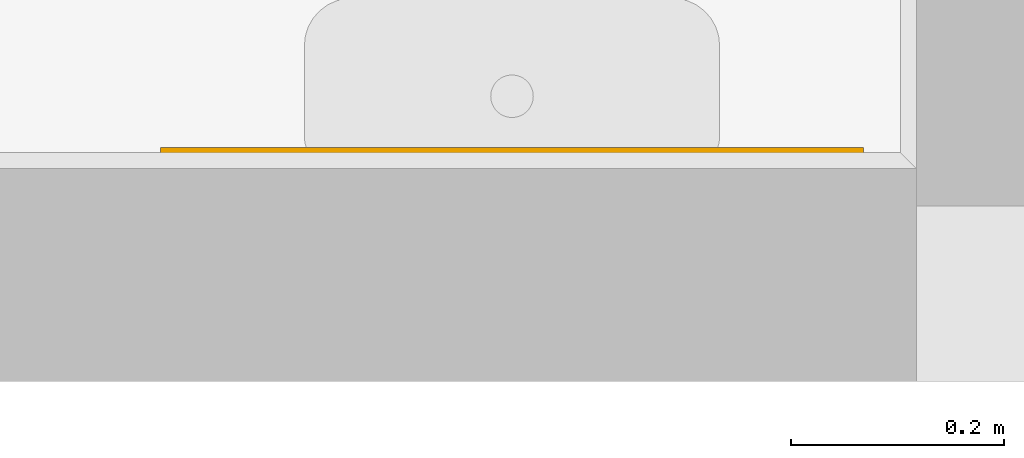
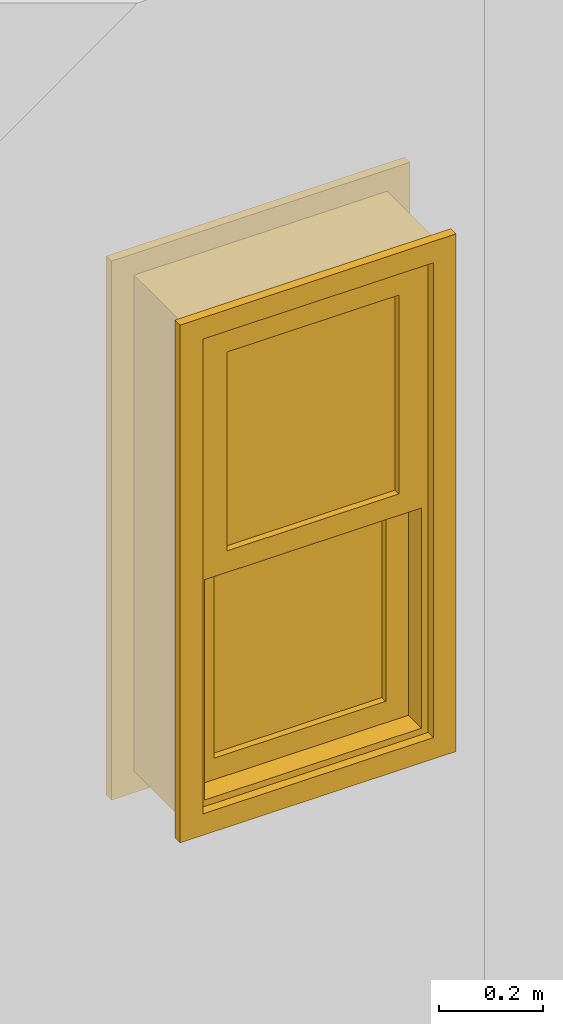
# One storey, part 35 of 77: 1 window.
"""IFC2X3 building model written with IfcOpenShell, lengths in inches."""

from ifc_helpers import new_model, entity, si_unit, converted_unit, derived_unit, money_unit, direction, frame, origin_with_axes, place, context, subcontext, project, spatial, open_shell, faceted_brep, surface_model, type_object, element, save


model = new_model("IFC2X3")

# Units and contexts
model_context = context("Model", 3, precision=0.000393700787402, world=origin_with_axes(), true_north=direction((0.0, 1.0)))
body_context = subcontext(model_context, "Body", "Model", "MODEL_VIEW")
ifc_project = project(units=[converted_unit("LENGTHUNIT", "INCH", entity("IfcPositiveLengthMeasure", 0.0254), si_unit("LENGTHUNIT", "METRE"), dimensions=[1, 0, 0, 0, 0, 0, 0]), converted_unit("AREAUNIT", "SQUARE_FOOT", entity("IfcPositiveLengthMeasure", 0.09290304), si_unit("AREAUNIT", "SQUARE_METRE"), dimensions=[2, 0, 0, 0, 0, 0, 0]), si_unit("PLANEANGLEUNIT", "RADIAN"), si_unit("SOLIDANGLEUNIT", "STERADIAN"), money_unit("USD"), converted_unit("TIMEUNIT", "Year", entity("IfcTimeMeasure", 31556926.0), si_unit("TIMEUNIT", "SECOND"), dimensions=[0, 0, 1, 0, 0, 0, 0]), si_unit("MASSUNIT", "GRAM", prefix="KILO"), si_unit("THERMODYNAMICTEMPERATUREUNIT", "DEGREE_CELSIUS"), si_unit("LUMINOUSINTENSITYUNIT", "LUMEN"), si_unit("ENERGYUNIT", "JOULE", prefix="MEGA"), derived_unit("THERMALCONDUCTANCEUNIT", [(si_unit("POWERUNIT", "WATT"), 1), (si_unit("LENGTHUNIT", "METRE"), -1), (si_unit("THERMODYNAMICTEMPERATUREUNIT", "KELVIN"), -1)]), derived_unit("SPECIFICHEATCAPACITYUNIT", [(si_unit("ENERGYUNIT", "JOULE"), 1), (si_unit("MASSUNIT", "GRAM", prefix="KILO"), -1), (si_unit("THERMODYNAMICTEMPERATUREUNIT", "KELVIN"), -1)]), derived_unit("MASSDENSITYUNIT", [(si_unit("MASSUNIT", "GRAM", prefix="KILO"), 1), (si_unit("VOLUMEUNIT", "CUBIC_METRE"), -1)])], contexts=[model_context])

# Site, building, storey
site_placement = place(None, origin_with_axes())
site = spatial("IfcSite", under=ifc_project, at=site_placement, Name="Site", CompositionType="ELEMENT")
building_placement = place(site_placement, origin_with_axes())
building = spatial("IfcBuilding", under=site, at=building_placement, Name="Building", CompositionType="ELEMENT")
storey_placement = place(building_placement, frame((0.0, 0.0, 127.952755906), z_axis=(0.0, 0.0, 1.0), x_axis=(1.0, 0.0, 0.0)))
storey = spatial("IfcBuildingStorey", under=building, at=storey_placement, Name="Second Floor", CompositionType="ELEMENT", Elevation=127.953)

# Window
window_style = type_object("IfcWindowStyle", Name="Double-Hung Window 25", ConstructionType="NOTDEFINED", OperationType="DOUBLE_PANEL_HORIZONTAL", ParameterTakesPrecedence=False, Sizeable=False)
window_placement = place(storey_placement, frame((834.935785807, 20.7811880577, 49.0157480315), z_axis=(0.0, 0.0, 1.0), x_axis=(1.0, 0.0, 0.0)))
element("IfcWindow", 1, at=window_placement, inside=storey, type_object=window_style, Name="W-11", OverallHeight=45.6693, OverallWidth=22.0472, context=body_context, shape_type="SurfaceModel", body=[
    faceted_brep([(22.0472440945, -3.93700787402, 0.0), (0.0, -3.93700787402, 0.0), (0.0, 0.0, 0.0), (22.0472440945, 0.0, 0.0), (22.0472440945, -3.93700787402, 45.6692913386), (0.0, -3.93700787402, 45.6692913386), (21.8503937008, -3.93700787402, 0.196850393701), (0.196850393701, -3.93700787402, 0.196850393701), (0.196850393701, -3.93700787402, 45.4724409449), (21.8503937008, -3.93700787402, 45.4724409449), (0.0, 0.0, 45.6692913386), (22.0472440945, 0.0, 45.6692913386), (21.8503937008, 0.0, 0.196850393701), (21.8503937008, 0.0, 45.4724409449), (0.196850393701, 0.0, 45.4724409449), (0.196850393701, 0.0, 0.196850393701)], [[[0, 1, 2, 3]], [[0, 4, 5, 1], [6, 7, 8, 9]], [[1, 5, 10, 2]], [[3, 2, 10, 11], [12, 13, 14, 15]], [[4, 0, 3, 11]], [[5, 4, 11, 10]], [[7, 6, 12, 15]], [[8, 7, 15, 14]], [[9, 8, 14, 13]], [[6, 9, 13, 12]]]),
    faceted_brep([(24.0157480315, 0.787401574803, -1.96850393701), (24.0157480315, 0.0, -1.96850393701), (22.0472440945, 0.0, 0.0), (22.0472440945, 0.787401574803, 0.0), (24.0157480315, 0.787401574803, 47.6377952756), (24.0157480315, 0.0, 47.6377952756), (22.0472440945, 0.0, 45.6692913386), (22.0472440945, 0.787401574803, 45.6692913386)], [[[0, 1, 2, 3]], [[4, 5, 1, 0]], [[1, 5, 6, 2]], [[3, 2, 6, 7]], [[0, 3, 7, 4]], [[7, 6, 5, 4]]]),
    faceted_brep([(-1.96850393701, 0.787401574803, 47.6377952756), (-1.96850393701, 0.0, 47.6377952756), (0.0, 0.0, 45.6692913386), (0.0, 0.787401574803, 45.6692913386), (-1.96850393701, 0.787401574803, -1.96850393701), (-1.96850393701, 0.0, -1.96850393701), (0.0, 0.0, 0.0), (0.0, 0.787401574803, 0.0)], [[[0, 1, 2, 3]], [[4, 5, 1, 0]], [[1, 5, 6, 2]], [[3, 2, 6, 7]], [[0, 3, 7, 4]], [[7, 6, 5, 4]]]),
    faceted_brep([(-1.96850393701, 0.787401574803, -1.96850393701), (-1.96850393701, 0.0, -1.96850393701), (0.0, 0.0, 0.0), (0.0, 0.787401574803, 0.0), (24.0157480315, 0.787401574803, -1.96850393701), (24.0157480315, 0.0, -1.96850393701), (22.0472440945, 0.0, 0.0), (22.0472440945, 0.787401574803, 0.0)], [[[0, 1, 2, 3]], [[4, 5, 1, 0]], [[1, 5, 6, 2]], [[3, 2, 6, 7]], [[0, 3, 7, 4]], [[7, 6, 5, 4]]]),
    faceted_brep([(24.0157480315, 0.787401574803, 47.6377952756), (24.0157480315, 0.0, 47.6377952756), (22.0472440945, 0.0, 45.6692913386), (22.0472440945, 0.787401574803, 45.6692913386), (-1.96850393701, 0.787401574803, 47.6377952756), (-1.96850393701, 0.0, 47.6377952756), (0.0, 0.0, 45.6692913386), (0.0, 0.787401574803, 45.6692913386)], [[[0, 1, 2, 3]], [[4, 5, 1, 0]], [[1, 5, 6, 2]], [[3, 2, 6, 7]], [[0, 3, 7, 4]], [[7, 6, 5, 4]]]),
    faceted_brep([(23.031496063, -8.66141732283, -0.984251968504), (21.062992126, -8.66141732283, 0.984251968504), (21.062992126, -7.87401574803, 0.984251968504), (23.031496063, -7.87401574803, -0.984251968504), (23.031496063, -8.66141732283, 46.6535433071), (21.062992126, -8.66141732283, 44.6850393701), (21.062992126, -7.87401574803, 44.6850393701), (23.031496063, -7.87401574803, 46.6535433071)], [[[0, 1, 2, 3]], [[0, 4, 5, 1]], [[1, 5, 6, 2]], [[3, 2, 6, 7]], [[4, 0, 3, 7]], [[5, 4, 7, 6]]]),
    faceted_brep([(-0.984251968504, -8.66141732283, 46.6535433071), (0.984251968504, -8.66141732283, 44.6850393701), (0.984251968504, -7.87401574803, 44.6850393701), (-0.984251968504, -7.87401574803, 46.6535433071), (-0.984251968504, -8.66141732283, -0.984251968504), (0.984251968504, -8.66141732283, 0.984251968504), (0.984251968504, -7.87401574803, 0.984251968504), (-0.984251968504, -7.87401574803, -0.984251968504)], [[[0, 1, 2, 3]], [[0, 4, 5, 1]], [[1, 5, 6, 2]], [[3, 2, 6, 7]], [[4, 0, 3, 7]], [[5, 4, 7, 6]]]),
    faceted_brep([(-0.984251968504, -8.66141732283, -0.984251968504), (0.984251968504, -8.66141732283, 0.984251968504), (0.984251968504, -7.87401574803, 0.984251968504), (-0.984251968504, -7.87401574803, -0.984251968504), (23.031496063, -8.66141732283, -0.984251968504), (21.062992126, -8.66141732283, 0.984251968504), (21.062992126, -7.87401574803, 0.984251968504), (23.031496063, -7.87401574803, -0.984251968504)], [[[0, 1, 2, 3]], [[0, 4, 5, 1]], [[1, 5, 6, 2]], [[3, 2, 6, 7]], [[4, 0, 3, 7]], [[5, 4, 7, 6]]]),
    faceted_brep([(23.031496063, -8.66141732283, 46.6535433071), (21.062992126, -8.66141732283, 44.6850393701), (21.062992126, -7.87401574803, 44.6850393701), (23.031496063, -7.87401574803, 46.6535433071), (-0.984251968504, -8.66141732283, 46.6535433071), (0.984251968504, -8.66141732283, 44.6850393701), (0.984251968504, -7.87401574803, 44.6850393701), (-0.984251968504, -7.87401574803, 46.6535433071)], [[[0, 1, 2, 3]], [[0, 4, 5, 1]], [[1, 5, 6, 2]], [[3, 2, 6, 7]], [[4, 0, 3, 7]], [[5, 4, 7, 6]]]),
    faceted_brep([(20.4724409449, -7.87401574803, 44.094488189), (22.0472440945, -7.87401574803, 44.094488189), (22.0472440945, -3.93700787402, 44.094488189), (20.4724409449, -3.93700787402, 44.094488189), (20.4724409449, -7.87401574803, 1.57480314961), (22.0472440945, -7.87401574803, 1.57480314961), (22.0472440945, -3.93700787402, 1.57480314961), (20.4724409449, -3.93700787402, 1.57480314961)], [[[0, 1, 2, 3]], [[0, 4, 5, 1]], [[1, 5, 6, 2]], [[3, 2, 6, 7]], [[4, 0, 3, 7]], [[5, 4, 7, 6]]]),
    faceted_brep([(1.57480314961, -7.87401574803, 1.57480314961), (0.0, -7.87401574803, 1.57480314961), (0.0, -3.93700787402, 1.57480314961), (1.57480314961, -3.93700787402, 1.57480314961), (1.57480314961, -7.87401574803, 44.094488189), (0.0, -7.87401574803, 44.094488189), (0.0, -3.93700787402, 44.094488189), (1.57480314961, -3.93700787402, 44.094488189)], [[[0, 1, 2, 3]], [[0, 4, 5, 1]], [[1, 5, 6, 2]], [[3, 2, 6, 7]], [[4, 0, 3, 7]], [[5, 4, 7, 6]]]),
    faceted_brep([(20.4724409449, -7.87401574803, 1.57480314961), (22.0472440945, -7.87401574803, 1.57480314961), (22.0472440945, -3.93700787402, 1.57480314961), (20.4724409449, -3.93700787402, 1.57480314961), (1.57480314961, -7.87401574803, 1.57480314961), (0.0, -7.87401574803, 1.57480314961), (0.0, -7.87401574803, 0.0), (22.0472440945, -7.87401574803, 0.0), (22.0472440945, -3.93700787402, 0.0), (0.0, -3.93700787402, 0.0), (0.0, -3.93700787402, 1.57480314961), (1.57480314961, -3.93700787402, 1.57480314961)], [[[0, 1, 2, 3]], [[0, 4, 5, 6, 7, 1]], [[1, 7, 8, 2]], [[3, 2, 8, 9, 10, 11]], [[4, 0, 3, 11]], [[5, 4, 11, 10]], [[6, 5, 10, 9]], [[7, 6, 9, 8]]]),
    faceted_brep([(1.57480314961, -7.87401574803, 44.094488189), (0.0, -7.87401574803, 44.094488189), (0.0, -3.93700787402, 44.094488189), (1.57480314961, -3.93700787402, 44.094488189), (20.4724409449, -7.87401574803, 44.094488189), (22.0472440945, -7.87401574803, 44.094488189), (22.0472440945, -7.87401574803, 45.6692913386), (0.0, -7.87401574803, 45.6692913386), (0.0, -3.93700787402, 45.6692913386), (22.0472440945, -3.93700787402, 45.6692913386), (22.0472440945, -3.93700787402, 44.094488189), (20.4724409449, -3.93700787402, 44.094488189)], [[[0, 1, 2, 3]], [[0, 4, 5, 6, 7, 1]], [[1, 7, 8, 2]], [[3, 2, 8, 9, 10, 11]], [[4, 0, 3, 11]], [[5, 4, 11, 10]], [[6, 5, 10, 9]], [[7, 6, 9, 8]]]),
    faceted_brep([(18.5039370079, -5.90551181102, 21.8503937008), (20.4724409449, -5.90551181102, 21.8503937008), (20.4724409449, -3.93700787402, 21.8503937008), (18.5039370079, -3.93700787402, 21.8503937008), (18.5039370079, -5.90551181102, 3.54330708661), (20.4724409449, -5.90551181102, 3.54330708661), (20.4724409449, -3.93700787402, 3.54330708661), (18.5039370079, -3.93700787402, 3.54330708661)], [[[0, 1, 2, 3]], [[0, 4, 5, 1]], [[1, 5, 6, 2]], [[3, 2, 6, 7]], [[4, 0, 3, 7]], [[5, 4, 7, 6]]]),
    faceted_brep([(3.54330708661, -5.90551181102, 3.54330708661), (1.57480314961, -5.90551181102, 3.54330708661), (1.57480314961, -3.93700787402, 3.54330708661), (3.54330708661, -3.93700787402, 3.54330708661), (3.54330708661, -5.90551181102, 21.8503937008), (1.57480314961, -5.90551181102, 21.8503937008), (1.57480314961, -3.93700787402, 21.8503937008), (3.54330708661, -3.93700787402, 21.8503937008)], [[[0, 1, 2, 3]], [[0, 4, 5, 1]], [[1, 5, 6, 2]], [[3, 2, 6, 7]], [[4, 0, 3, 7]], [[5, 4, 7, 6]]]),
    faceted_brep([(1.57480314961, -5.90551181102, 1.57480314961), (1.57480314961, -5.90551181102, 3.54330708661), (1.57480314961, -3.93700787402, 3.54330708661), (1.57480314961, -3.93700787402, 1.57480314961), (20.4724409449, -5.90551181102, 1.57480314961), (20.4724409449, -5.90551181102, 3.54330708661), (18.5039370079, -5.90551181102, 3.54330708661), (3.54330708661, -5.90551181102, 3.54330708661), (3.54330708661, -3.93700787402, 3.54330708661), (18.5039370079, -3.93700787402, 3.54330708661), (20.4724409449, -3.93700787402, 3.54330708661), (20.4724409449, -3.93700787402, 1.57480314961)], [[[0, 1, 2, 3]], [[0, 4, 5, 6, 7, 1]], [[1, 7, 8, 2]], [[3, 2, 8, 9, 10, 11]], [[4, 0, 3, 11]], [[5, 4, 11, 10]], [[6, 5, 10, 9]], [[7, 6, 9, 8]]]),
    faceted_brep([(20.4724409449, -5.90551181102, 23.8188976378), (20.4724409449, -5.90551181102, 21.8503937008), (20.4724409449, -3.93700787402, 21.8503937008), (20.4724409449, -3.93700787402, 23.8188976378), (1.57480314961, -5.90551181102, 23.8188976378), (1.57480314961, -5.90551181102, 21.8503937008), (3.54330708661, -5.90551181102, 21.8503937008), (18.5039370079, -5.90551181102, 21.8503937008), (18.5039370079, -3.93700787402, 21.8503937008), (3.54330708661, -3.93700787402, 21.8503937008), (1.57480314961, -3.93700787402, 21.8503937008), (1.57480314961, -3.93700787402, 23.8188976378)], [[[0, 1, 2, 3]], [[0, 4, 5, 6, 7, 1]], [[1, 7, 8, 2]], [[3, 2, 8, 9, 10, 11]], [[4, 0, 3, 11]], [[5, 4, 11, 10]], [[6, 5, 10, 9]], [[7, 6, 9, 8]]]),
    surface_model("IfcShellBasedSurfaceModel", [(18.5039370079, -5.31496062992, 3.54330708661), (18.5039370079, -5.31496062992, 21.8503937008), (3.54330708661, -5.31496062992, 21.8503937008), (3.54330708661, -5.31496062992, 3.54330708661)], [open_shell([[[0, 1, 2, 3]]])]),
    surface_model("IfcShellBasedSurfaceModel", [(18.5039370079, -4.52755905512, 3.54330708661), (3.54330708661, -4.52755905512, 3.54330708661), (3.54330708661, -4.52755905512, 21.8503937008), (18.5039370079, -4.52755905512, 21.8503937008)], [open_shell([[[0, 1, 2, 3]]])]),
    faceted_brep([(18.5039370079, -7.87401574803, 42.125984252), (20.4724409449, -7.87401574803, 42.125984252), (20.4724409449, -5.90551181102, 42.125984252), (18.5039370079, -5.90551181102, 42.125984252), (18.5039370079, -7.87401574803, 23.8188976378), (20.4724409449, -7.87401574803, 23.8188976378), (20.4724409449, -5.90551181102, 23.8188976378), (18.5039370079, -5.90551181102, 23.8188976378)], [[[0, 1, 2, 3]], [[0, 4, 5, 1]], [[1, 5, 6, 2]], [[3, 2, 6, 7]], [[4, 0, 3, 7]], [[5, 4, 7, 6]]]),
    faceted_brep([(3.54330708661, -7.87401574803, 23.8188976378), (1.57480314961, -7.87401574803, 23.8188976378), (1.57480314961, -5.90551181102, 23.8188976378), (3.54330708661, -5.90551181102, 23.8188976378), (3.54330708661, -7.87401574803, 42.125984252), (1.57480314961, -7.87401574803, 42.125984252), (1.57480314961, -5.90551181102, 42.125984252), (3.54330708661, -5.90551181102, 42.125984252)], [[[0, 1, 2, 3]], [[0, 4, 5, 1]], [[1, 5, 6, 2]], [[3, 2, 6, 7]], [[4, 0, 3, 7]], [[5, 4, 7, 6]]]),
    faceted_brep([(1.57480314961, -7.87401574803, 21.8503937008), (1.57480314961, -7.87401574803, 23.8188976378), (1.57480314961, -5.90551181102, 23.8188976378), (1.57480314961, -5.90551181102, 21.8503937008), (20.4724409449, -7.87401574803, 21.8503937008), (20.4724409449, -7.87401574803, 23.8188976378), (18.5039370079, -7.87401574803, 23.8188976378), (3.54330708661, -7.87401574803, 23.8188976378), (3.54330708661, -5.90551181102, 23.8188976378), (18.5039370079, -5.90551181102, 23.8188976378), (20.4724409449, -5.90551181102, 23.8188976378), (20.4724409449, -5.90551181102, 21.8503937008)], [[[0, 1, 2, 3]], [[0, 4, 5, 6, 7, 1]], [[1, 7, 8, 2]], [[3, 2, 8, 9, 10, 11]], [[4, 0, 3, 11]], [[5, 4, 11, 10]], [[6, 5, 10, 9]], [[7, 6, 9, 8]]]),
    faceted_brep([(20.4724409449, -7.87401574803, 44.094488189), (20.4724409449, -7.87401574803, 42.125984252), (20.4724409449, -5.90551181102, 42.125984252), (20.4724409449, -5.90551181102, 44.094488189), (1.57480314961, -7.87401574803, 44.094488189), (1.57480314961, -7.87401574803, 42.125984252), (3.54330708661, -7.87401574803, 42.125984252), (18.5039370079, -7.87401574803, 42.125984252), (18.5039370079, -5.90551181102, 42.125984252), (3.54330708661, -5.90551181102, 42.125984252), (1.57480314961, -5.90551181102, 42.125984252), (1.57480314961, -5.90551181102, 44.094488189)], [[[0, 1, 2, 3]], [[0, 4, 5, 6, 7, 1]], [[1, 7, 8, 2]], [[3, 2, 8, 9, 10, 11]], [[4, 0, 3, 11]], [[5, 4, 11, 10]], [[6, 5, 10, 9]], [[7, 6, 9, 8]]]),
    surface_model("IfcShellBasedSurfaceModel", [(18.5039370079, -7.28346456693, 23.8188976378), (18.5039370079, -7.28346456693, 42.125984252), (3.54330708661, -7.28346456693, 42.125984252), (3.54330708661, -7.28346456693, 23.8188976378)], [open_shell([[[0, 1, 2, 3]]])]),
    surface_model("IfcShellBasedSurfaceModel", [(18.5039370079, -6.49606299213, 23.8188976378), (3.54330708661, -6.49606299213, 23.8188976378), (3.54330708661, -6.49606299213, 42.125984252), (18.5039370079, -6.49606299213, 42.125984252)], [open_shell([[[0, 1, 2, 3]]])]),
])

save(model, "model.ifc")
